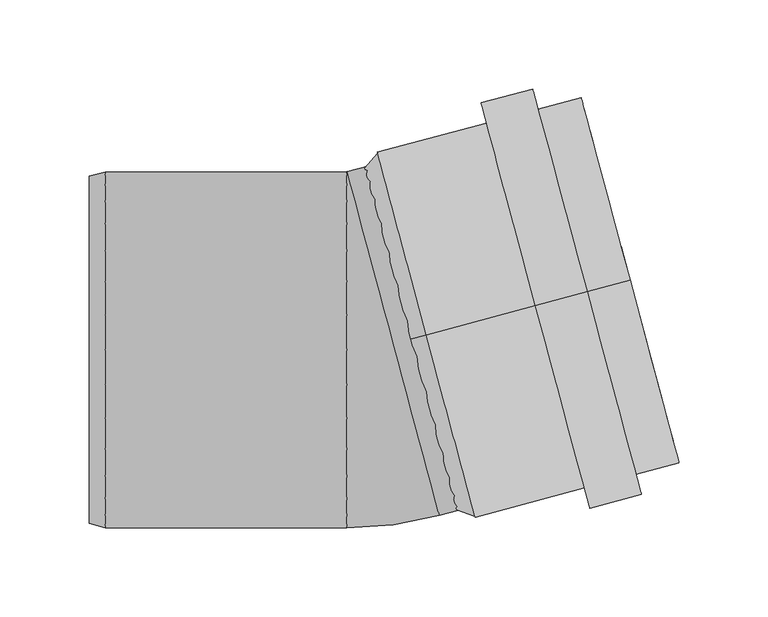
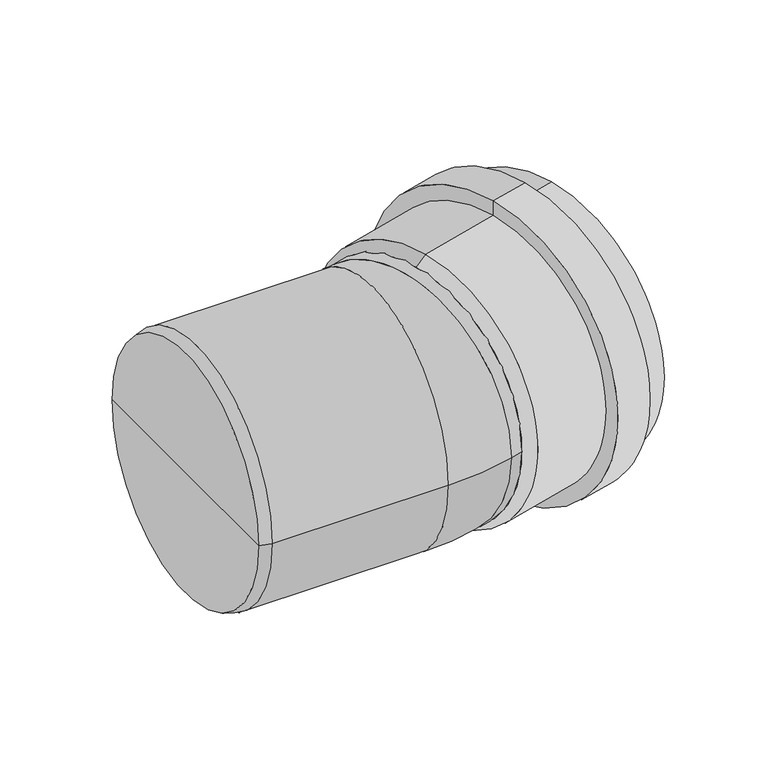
"""IFC4 building model written with IfcOpenShell, lengths in millimetres: pipe fitting geometry, OSMA_KG2000_PPKGB : Koleno 15°."""

from ifc_helpers import new_model, si_unit, point, frame, origin, place, context, project, spatial, polyline, circle_curve, ellipse_curve, trimmed, source, transform, mapped, element, save
from ifc_brep_helpers import plane_surface, cylinder_surface, revolved_surface, advanced_brep


def pipe_fitting_4036b64e(model_context):
    return source(origin(), model_context, "Body", "AdvancedBrep", [
        advanced_brep(
        [(31.3925894, 8.411619, 100.0), (31.3925894, 8.411619, -100.0), (145.8547998, 39.0816758, -100.0), (145.8547998, 39.0816758, 100.0), (92.7288793, 24.8466283, 106.2), (92.7288793, 24.8466283, -106.2), (31.3925894, 8.411619, -106.2), (31.3925894, 8.411619, 106.2), (92.7288793, 24.8466283, 118.0), (92.7288793, 24.8466283, -118.0), (121.7066541, 32.6111997, 118.0), (121.7066541, 32.6111997, -118.0), (121.7066541, 32.6111997, 106.2), (121.7066541, 32.6111997, -106.2), (145.8547998, 39.0816758, 106.2), (145.8547998, 39.0816758, -106.2), (22.6992569, 6.0822476, 93.8), (22.6992569, 6.0822476, -93.8), (22.6992569, 6.0822476, 100.0), (22.6992569, 6.0822476, -100.0)],
        [
            (0, 1, circle_curve(frame((31.3925894, 8.411619, 0.0), z_axis=(-0.9659258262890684, -0.25881904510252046, 0.0), x_axis=(0.0, 0.0, -1.0000000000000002)), 100.0)),
            (1, 2),
            (2, 3, circle_curve(frame((145.8547998, 39.0816758, 0.0), z_axis=(0.9659258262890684, 0.25881904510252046, 0.0), x_axis=(0.0, 0.0, -1.0000000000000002)), 100.0)),
            (3, 0),
            (1, 0, circle_curve(frame((31.3925894, 8.411619, 0.0), z_axis=(-0.9659258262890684, -0.25881904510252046, 0.0), x_axis=(0.0, 0.0, -1.0000000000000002)), 100.0)),
            (3, 2, circle_curve(frame((145.8547998, 39.0816758, 0.0), z_axis=(0.9659258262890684, 0.25881904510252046, 0.0), x_axis=(0.0, 0.0, -1.0000000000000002)), 100.0)),
            (4, 5, circle_curve(frame((92.7288793, 24.8466283, 0.0), z_axis=(-0.9659258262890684, -0.25881904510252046, 0.0), x_axis=(0.0, 0.0, -1.0000000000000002)), 106.2)),
            (5, 6),
            (6, 7, circle_curve(frame((31.3925894, 8.411619, 0.0), z_axis=(0.9659258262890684, 0.25881904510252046, 0.0), x_axis=(0.0, 0.0, -1.0000000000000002)), 106.2)),
            (7, 4),
            (5, 4, circle_curve(frame((92.7288793, 24.8466283, 0.0), z_axis=(-0.9659258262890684, -0.25881904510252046, 0.0), x_axis=(0.0, 0.0, -1.0000000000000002)), 106.2)),
            (7, 6, circle_curve(frame((31.3925894, 8.411619, 0.0), z_axis=(0.9659258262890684, 0.25881904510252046, 0.0), x_axis=(0.0, 0.0, -1.0000000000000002)), 106.2)),
            (8, 9, circle_curve(frame((92.7288793, 24.8466283, 0.0), z_axis=(-0.9659258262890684, -0.25881904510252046, 0.0), x_axis=(0.0, 0.0, -1.0000000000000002)), 118.0)),
            (9, 5),
            (4, 8),
            (9, 8, circle_curve(frame((92.7288793, 24.8466283, 0.0), z_axis=(-0.9659258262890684, -0.25881904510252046, 0.0), x_axis=(0.0, 0.0, -1.0000000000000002)), 118.0)),
            (10, 11, circle_curve(frame((121.7066541, 32.6111997, 0.0), z_axis=(-0.9659258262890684, -0.25881904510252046, 0.0), x_axis=(0.0, 0.0, -1.0000000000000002)), 118.0)),
            (11, 9),
            (8, 10),
            (11, 10, circle_curve(frame((121.7066541, 32.6111997, 0.0), z_axis=(-0.9659258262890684, -0.25881904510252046, 0.0), x_axis=(0.0, 0.0, -1.0000000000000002)), 118.0)),
            (12, 13, circle_curve(frame((121.7066541, 32.6111997, 0.0), z_axis=(-0.9659258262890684, -0.25881904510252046, 0.0), x_axis=(0.0, 0.0, -1.0000000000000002)), 106.2)),
            (13, 11),
            (10, 12),
            (13, 12, circle_curve(frame((121.7066541, 32.6111997, 0.0), z_axis=(-0.9659258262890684, -0.25881904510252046, 0.0), x_axis=(0.0, 0.0, -1.0000000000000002)), 106.2)),
            (14, 15, circle_curve(frame((145.8547998, 39.0816758, 0.0), z_axis=(-0.9659258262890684, -0.25881904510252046, 0.0), x_axis=(0.0, 0.0, -1.0000000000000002)), 106.2)),
            (15, 13),
            (12, 14),
            (15, 14, circle_curve(frame((145.8547998, 39.0816758, 0.0), z_axis=(-0.9659258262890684, -0.25881904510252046, 0.0), x_axis=(0.0, 0.0, -1.0000000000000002)), 106.2)),
            (2, 15),
            (14, 3),
            (16, 17, circle_curve(frame((22.6992569, 6.0822476, 0.0), z_axis=(-0.9659258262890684, -0.25881904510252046, 0.0), x_axis=(0.0, 0.0, -1.0000000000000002)), 93.8)),
            (17, 1),
            (0, 16),
            (17, 16, circle_curve(frame((22.6992569, 6.0822476, 0.0), z_axis=(-0.9659258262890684, -0.25881904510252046, 0.0), x_axis=(0.0, 0.0, -1.0000000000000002)), 93.8)),
            (18, 19, circle_curve(frame((22.6992569, 6.0822476, 0.0), z_axis=(-0.9659258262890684, -0.25881904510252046, 0.0), x_axis=(0.0, 0.0, -1.0000000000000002)), 100.0)),
            (19, 17),
            (16, 18),
            (19, 18, circle_curve(frame((22.6992569, 6.0822476, 0.0), z_axis=(-0.9659258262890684, -0.25881904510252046, 0.0), x_axis=(0.0, 0.0, -1.0000000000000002)), 100.0)),
            (6, 19),
            (18, 7),
        ],
        [
            revolved_surface(polyline([(145.85479979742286, 39.081675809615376, -100.00000000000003), (31.392589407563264, 8.41161897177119, -100.00000000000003)]), (2724.3688913, 729.9924443, 0.0), (0.9659258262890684, 0.25881904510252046, 0.0)),
            cylinder_surface(frame((2724.3688913, 729.9924443, 0.0), z_axis=(0.9659258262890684, 0.25881904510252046, 0.0), x_axis=(0.0, 0.0, -1.0000000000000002)), 106.2),
            plane_surface(frame((92.7288793, 24.8466283, 0.0), z_axis=(-0.9659258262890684, -0.25881904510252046, 0.0), x_axis=(0.0, 0.0, -1.0))),
            cylinder_surface(frame((2724.3688913, 729.9924443, 0.0), z_axis=(0.9659258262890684, 0.25881904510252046, 0.0), x_axis=(0.0, 0.0, -1.0000000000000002)), 118.0),
            plane_surface(frame((121.7066541, 32.6111997, 0.0), z_axis=(0.9659258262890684, 0.25881904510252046, 0.0), x_axis=(0.0, 0.0, -1.0))),
            plane_surface(frame((145.8547998, 39.0816758, 0.0), z_axis=(0.9659258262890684, 0.25881904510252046, 0.0), x_axis=(0.0, 0.0, -1.0))),
            revolved_surface(polyline([(31.3925894, 8.411619, -100.0), (22.6992569, 6.0822476, -93.8)]), (2724.3688913, 729.9924443, 0.0), (0.9659258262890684, 0.25881904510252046, 0.0)),
            plane_surface(frame((22.6992569, 6.0822476, 0.0), z_axis=(-0.9659258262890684, -0.25881904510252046, 0.0), x_axis=(0.0, 0.0, -1.0))),
            revolved_surface(polyline([(22.6992569, 6.0822476, -100.0), (31.3925894, 8.411619, -106.2)]), (2724.3688913, 729.9924443, 0.0), (0.9659258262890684, 0.25881904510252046, 0.0)),
        ],
        [
            (0, [[1, 2, 3, 4]]),
            (0, [[5, -4, 6, -2]]),
            (1, [[7, 8, 9, 10]]),
            (1, [[11, -10, 12, -8]]),
            (2, [[13, 14, -7, 15]]),
            (2, [[16, -15, -11, -14]]),
            (3, [[17, 18, -13, 19]]),
            (3, [[20, -19, -16, -18]]),
            (4, [[21, 22, -17, 23]]),
            (4, [[24, -23, -20, -22]]),
            (1, [[25, 26, -21, 27]]),
            (1, [[28, -27, -24, -26]]),
            (5, [[-3, 29, -25, 30]]),
            (5, [[-6, -30, -28, -29]]),
            (6, [[31, 32, -1, 33]]),
            (6, [[34, -33, -5, -32]]),
            (7, [[35, 36, -31, 37]]),
            (7, [[38, -37, -34, -36]]),
            (8, [[-9, 39, -35, 40]]),
            (8, [[-12, -40, -38, -39]]),
        ],
    ),
        advanced_brep(
        [(-158.0, 0.0, 0.0), (-158.0, 97.5884572, 0.0), (-158.0, -97.5884572, 0.0), (-149.0, 100.0, 0.0), (-149.0, -100.0, 0.0), (-12.9744999, 100.0511113, 0.0), (-13.3627285, 100.0, 0.0), (-13.3627285, -100.0, 0.0), (38.7893091, -93.134054, 0.0), (12.9074046, 3.4585286, 100.0), (12.9074046, 3.4585286, -100.0), (55.8256051, -88.5691922, 0.0), (4.0617961, 104.615973, 0.0)],
        [
            (0, 1),
            (1, 2, circle_curve(frame((-158.0, 0.0, 0.0), z_axis=(-1.0, 0.0, 0.0), x_axis=(0.0, 1.0, 0.0)), 97.5884572)),
            (2, 0),
            (2, 1, circle_curve(frame((-158.0, 0.0, 0.0), z_axis=(-1.0, 0.0, 0.0), x_axis=(0.0, 1.0, 0.0)), 97.5884572)),
            (1, 3),
            (3, 4, circle_curve(frame((-149.0, 0.0, 0.0), z_axis=(-1.0, 0.0, 0.0), x_axis=(0.0, 1.0, 0.0)), 100.0)),
            (4, 2),
            (4, 3, circle_curve(frame((-149.0, 0.0, 0.0), z_axis=(-1.0, 0.0, 0.0), x_axis=(0.0, 1.0, 0.0)), 100.0)),
            (5, 6, circle_curve(frame((-13.3627285, 101.5, 0.0), z_axis=(0.0, 0.0, -1.0), x_axis=(0.0, -1.0, 0.0)), 1.5)),
            (6, 7, circle_curve(frame((-13.3627285, 0.0, 0.0), z_axis=(1.0, 0.0, 0.0), x_axis=(0.0, 1.0, 0.0)), 100.0)),
            (7, 8, circle_curve(frame((-13.3627285, 101.5, 0.0), z_axis=(0.0, 0.0, 1.0), x_axis=(0.0, -1.0, 0.0)), 201.5)),
            (8, 9, circle_curve(frame((12.9074046, 3.4585286, 0.0), z_axis=(-0.9659258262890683, -0.2588190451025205, 0.0), x_axis=(-0.2588190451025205, 0.9659258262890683, 0.0)), 100.0)),
            (9, 5, circle_curve(frame((12.9074046, 3.4585286, 0.0), z_axis=(-0.9659258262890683, -0.2588190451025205, 0.0), x_axis=(-0.2588190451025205, 0.9659258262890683, 0.0)), 100.0)),
            (5, 10, circle_curve(frame((12.9074046, 3.4585286, 0.0), z_axis=(-0.9659258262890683, -0.2588190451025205, 0.0), x_axis=(-0.2588190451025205, 0.9659258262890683, 0.0)), 100.0)),
            (10, 8, circle_curve(frame((12.9074046, 3.4585286, 0.0), z_axis=(-0.9659258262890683, -0.25881904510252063, 0.0), x_axis=(-0.25881904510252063, 0.9659258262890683, 0.0)), 100.0)),
            (7, 6, circle_curve(frame((-13.3627285, 0.0, 0.0), z_axis=(1.0, 0.0, 0.0), x_axis=(0.0, 1.0, 0.0)), 100.0)),
            (3, 6),
            (7, 4),
            (11, 12, circle_curve(frame((29.9437006, 8.0233904, 0.0), z_axis=(0.9659258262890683, 0.2588190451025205, 0.0), x_axis=(-0.2588190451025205, 0.9659258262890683, 0.0)), 100.0)),
            (12, 11, circle_curve(frame((29.9437006, 8.0233904, 0.0), z_axis=(0.9659258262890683, 0.2588190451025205, 0.0), x_axis=(-0.2588190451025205, 0.9659258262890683, 0.0)), 100.0)),
            (12, 5),
            (8, 11),
        ],
        [
            plane_surface(frame((-158.0, 0.0, 0.0), z_axis=(-1.0, 0.0, 0.0), x_axis=(0.0, 1.0, 0.0))),
            revolved_surface(polyline([(-149.0, 100.0, 0.0), (-158.0, 97.5884572, 0.0)]), (331.0587718, 0.0, 0.0), (-1.0, 0.0, 0.0)),
            revolved_surface(trimmed(ellipse_curve(frame((-13.3627285, 0.0, 0.0), z_axis=(-1.0, 0.0, 0.0), x_axis=(0.0, 1.0, 0.0)), 100.0, 100.0), [point((-13.3627285, -100.0, 0.0))], [point((-13.3627285, 100.0, 0.0))], True, "CARTESIAN"), (-13.3627285, 101.5, 0.0), (0.0, 0.0, 1.0)),
            revolved_surface(trimmed(ellipse_curve(frame((-13.3627285, 0.0, 0.0), z_axis=(-1.0, 0.0, 0.0), x_axis=(0.0, 1.0, 0.0)), 100.0, 100.0), [point((-13.3627285, 100.0, 0.0))], [point((-13.3627285, -100.0, 0.0))], True, "CARTESIAN"), (-13.3627285, 101.5, 0.0), (0.0, 0.0, 1.0)),
            cylinder_surface(frame((331.0587718, 0.0, 0.0), z_axis=(-1.0, 0.0, 0.0), x_axis=(0.0, 1.0, 0.0)), 100.0),
            plane_surface(frame((29.9437006, 8.0233904, 0.0), z_axis=(0.9659258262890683, 0.2588190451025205, 0.0), x_axis=(0.0, 0.0, 1.0))),
            cylinder_surface(frame((12.9074046, 3.4585286, 0.0), z_axis=(-0.9659258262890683, -0.2588190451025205, 0.0), x_axis=(-0.2588190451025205, 0.9659258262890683, 0.0)), 100.0),
        ],
        [
            (0, [[1, 2, 3]]),
            (0, [[-1, -3, 4]]),
            (1, [[-2, 5, 6, 7]]),
            (1, [[-4, -7, 8, -5]]),
            (2, [[9, 10, 11, 12, 13]]),
            (3, [[-9, 14, 15, -11, 16]]),
            (4, [[-6, 17, -16, 18]]),
            (4, [[-8, -18, -10, -17]]),
            (5, [[19, 20]]),
            (6, [[-20, 21, -13, -12, 22]]),
            (6, [[-19, -22, -15, -14, -21]]),
        ],
    ),
    ])


if __name__ == "__main__":
    model = new_model("IFC4")
    model_context = context("Model", 3, world=origin())
    ifc_project = project(units=[si_unit("LENGTHUNIT", "METRE", prefix="MILLI")], contexts=[model_context])
    site = spatial("IfcSite", under=ifc_project)
    building = spatial("IfcBuilding", under=site)
    placement = place(None, origin())
    pipe_fitting_shape = pipe_fitting_4036b64e(model_context)
    element("IfcPipeFitting", 1, ObjectType="OSMA_KG2000_PPKGB : Koleno 15°", at=placement, inside=building, context=model_context, shape_type="MappedRepresentation", body=[
        mapped(pipe_fitting_shape, transform((0.0, 0.0, 0.0), x_axis=(1.0, 0.0, 0.0), y_axis=(0.0, 1.0, 0.0), z_axis=(0.0, 0.0, 1.0))),
    ])
    save(model, "model.ifc")
